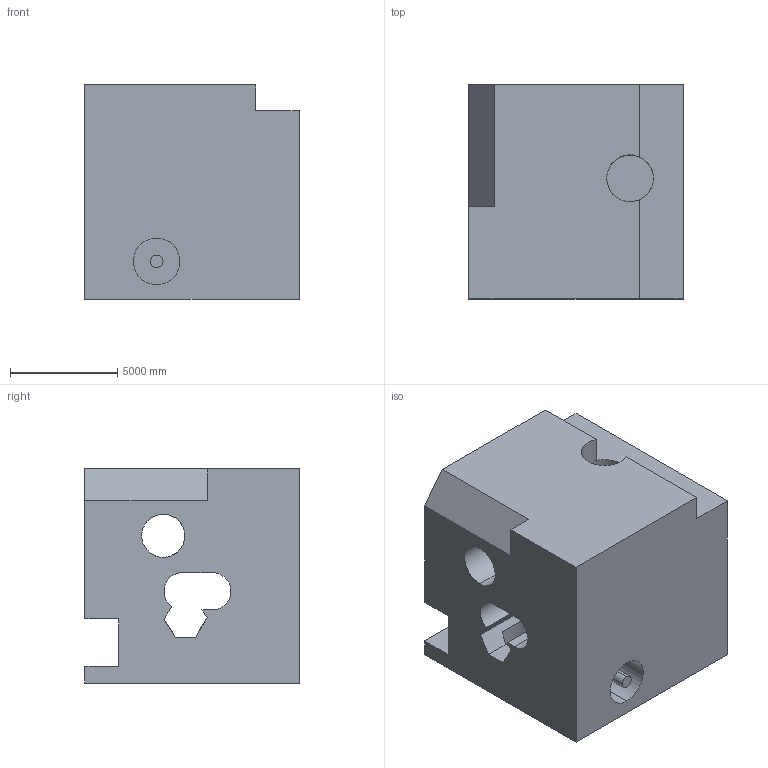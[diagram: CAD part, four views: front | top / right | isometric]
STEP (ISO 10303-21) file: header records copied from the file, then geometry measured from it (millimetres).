
FILE_DESCRIPTION (( 'STEP AP203' ), '1' );
FILE_NAME ('840.STEP', '2022-07-29T13:37:08', ( 'user' ), ( '' ), 'SwSTEP 2.0', 'SolidWorks 2021', '' );
FILE_SCHEMA (( 'CONFIG_CONTROL_DESIGN' ));
Length unit declared in the file: centimetre
Products named in the file (1): 840
Bounding box: 10000 x 10000 x 10000 mm (x, y, z)
Volume: 803708925518 mm3; surface area: 818960593.9 mm2
Topology: 1 solids, 1 shells, 41 faces, 120 edges, 80 vertices
Faces by surface type: plane 27, cylinder 14
Entity records: 1910 total; most frequent: CARTESIAN_POINT 721, ORIENTED_EDGE 240, DIRECTION 222, EDGE_CURVE 120, LINE 80, VERTEX_POINT 80, VECTOR 80, AXIS2_PLACEMENT_3D 71
